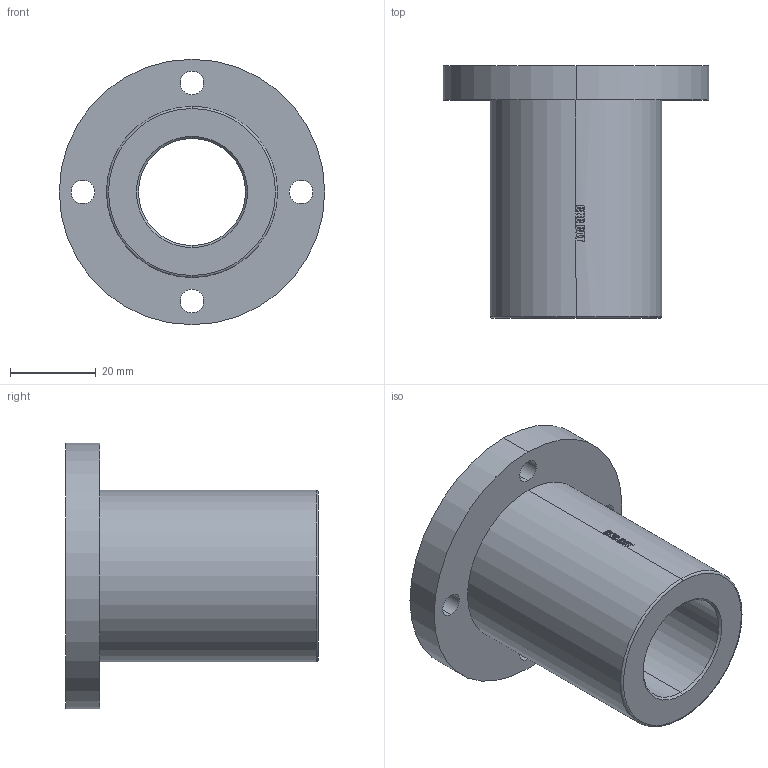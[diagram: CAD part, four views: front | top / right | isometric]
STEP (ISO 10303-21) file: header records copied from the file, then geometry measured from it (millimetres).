
FILE_DESCRIPTION (( 'STEP AP203' ), '1' );
FILE_NAME ('LMF25UU.STEP', '2017-08-10T13:18:54', ( '' ), ( '' ), 'SwSTEP 2.0', 'SolidWorks 2017', '' );
FILE_SCHEMA (( 'CONFIG_CONTROL_DESIGN' ));
Length unit declared in the file: millimetre
Products named in the file (1): LMF25UU
Bounding box: 62 x 59 x 62 mm (x, y, z)
Volume: 58499.3 mm3; surface area: 17985.8 mm2
Topology: 1 solids, 1 shells, 110 faces, 304 edges, 198 vertices
Faces by surface type: plane 48, bspline 32, cylinder 26, cone 2, torus 2
Entity records: 7297 total; most frequent: CARTESIAN_POINT 4661, ORIENTED_EDGE 608, DIRECTION 421, EDGE_CURVE 304, VERTEX_POINT 198, AXIS2_PLACEMENT_3D 165, B_SPLINE_CURVE_WITH_KNOTS 127, EDGE_LOOP 122
